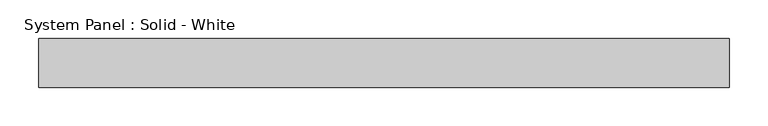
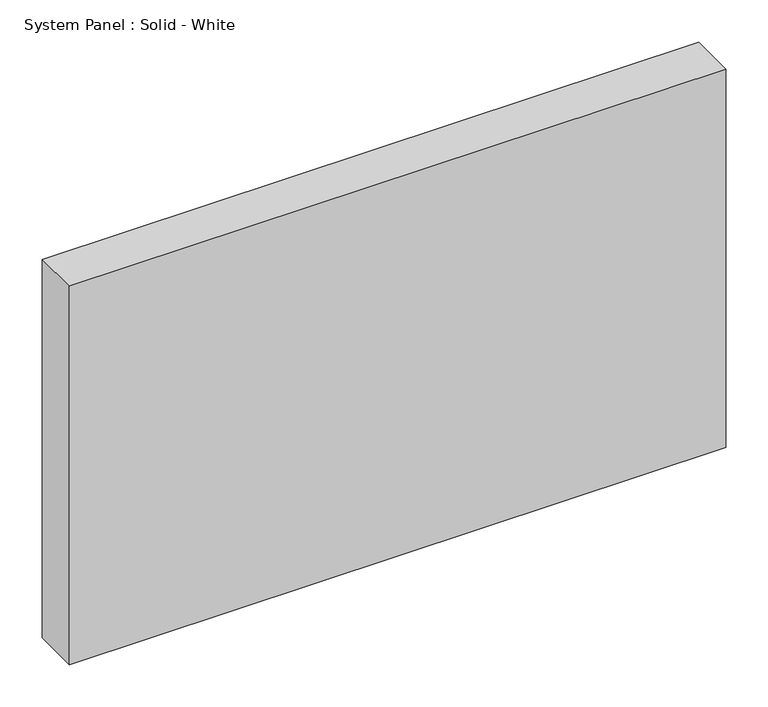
"""IFC4 building model written with IfcOpenShell, lengths in millimetres: plate geometry, System Panel : Solid - White."""

import ifcopenshell
import ifcopenshell.guid

model = None  # the IFC model being written
_history = None  # IfcOwnerHistory: only IFC2X3 demands one
_inside = {}  # id of a spatial element -> (the spatial element, [elements in it])
_under = {}  # id of a project, library or spatial element -> (it, [spatial elements below it])
_declared = {}  # id of a project -> (the project, [libraries it declares])
_typed = {}  # id of a type object -> (the type object, [elements of that type])
_made_of = {}  # id of a material, layer set ... -> (it, [elements and type objects made of it])


def new_model(schema):
    """Start an empty IFC model of exactly this schema.

    Asked for "IFC4X3", IfcOpenShell would pick the latest addendum, in which some entities
    have other attributes; the version numbers below select the first issue.
    IFC2X3 requires an IfcOwnerHistory on every rooted entity: one is made here for all.
    """
    global model, _history
    if schema == "IFC4X3":
        model = ifcopenshell.file(schema_version=(4, 3, 0, 0))
    else:
        model = ifcopenshell.file(schema=schema)
    _inside.clear()
    _under.clear()
    _declared.clear()
    _typed.clear()
    _made_of.clear()
    _history = None
    if model.schema == "IFC2X3":
        org = make("IfcOrganization", Name="unknown")
        user = make(
            "IfcPersonAndOrganization",
            ThePerson=make("IfcPerson", FamilyName="unknown"),
            TheOrganization=org,
        )
        app = make(
            "IfcApplication",
            ApplicationDeveloper=org,
            Version="unknown",
            ApplicationFullName="unknown",
            ApplicationIdentifier="unknown",
        )
        _history = make(
            "IfcOwnerHistory",
            OwningUser=user,
            OwningApplication=app,
            ChangeAction="ADDED",
            CreationDate=0,
        )
    return model


def make(cls, **values):
    """One entity of the class cls with the attributes given. An attribute that is None is left unset."""
    return model.create_entity(
        cls, **{name: value for name, value in values.items() if value is not None}
    )


def rooted(cls, **values):
    """An entity with a GlobalId (a new one), such as an element, a storey or a relation."""
    return make(cls, GlobalId=ifcopenshell.guid.new(), OwnerHistory=_history, **values)


def si_unit(unit_type, name, prefix=None):
    """IfcSIUnit, for example si_unit("LENGTHUNIT", "METRE", prefix="MILLI")."""
    return make("IfcSIUnit", UnitType=unit_type, Prefix=prefix, Name=name)


def assignment(units):
    """IfcUnitAssignment: the units of a project."""
    return None if units is None else make("IfcUnitAssignment", Units=units)


def point(xyz):
    """IfcCartesianPoint."""
    return None if xyz is None else make("IfcCartesianPoint", Coordinates=xyz)


def direction(xyz):
    """IfcDirection."""
    return None if xyz is None else make("IfcDirection", DirectionRatios=xyz)


def frame(location, z_axis=None, x_axis=None):
    """IfcAxis2Placement3D, a coordinate frame: its origin and axes. An axis left out is left unset."""
    return make(
        "IfcAxis2Placement3D",
        Location=point(location),
        Axis=direction(z_axis),
        RefDirection=direction(x_axis),
    )


def origin():
    """The frame at (0, 0, 0) with its axes left unset."""
    return frame((0.0, 0.0, 0.0))


def origin_with_axes():
    """The frame at (0, 0, 0) with the z axis (0, 0, 1) and the x axis (1, 0, 0) written out."""
    return frame((0.0, 0.0, 0.0), z_axis=(0.0, 0.0, 1.0), x_axis=(1.0, 0.0, 0.0))


def place(relative_to, where):
    """IfcLocalPlacement: puts the frame where relative to a parent placement (None: the world)."""
    return make(
        "IfcLocalPlacement", PlacementRelTo=relative_to, RelativePlacement=where
    )


def context(
    kind, dimensions, precision=None, world=None, true_north=None, identifier=None
):
    """IfcGeometricRepresentationContext, for example the 3D "Model" context."""
    return make(
        "IfcGeometricRepresentationContext",
        ContextIdentifier=identifier,
        ContextType=kind,
        CoordinateSpaceDimension=dimensions,
        Precision=precision,
        WorldCoordinateSystem=world,
        TrueNorth=true_north,
    )


def project(units=None, contexts=None):
    """IfcProject with its units and contexts."""
    return rooted(
        "IfcProject",
        Name="project",
        RepresentationContexts=contexts,
        UnitsInContext=assignment(units),
    )


def spatial(cls, under=None, at=None, **own):
    """A site, building, storey or space (cls), placed at a placement, below another one or the project."""
    s = rooted(cls, ObjectPlacement=at, **own)
    if under is not None:
        _under.setdefault(under.id(), (under, []))[1].append(s)
    return s


def polyline(points):
    """IfcPolyline through the points."""
    return make("IfcPolyline", Points=[point(p) for p in points])


def outline(outer, holes=None, kind="AREA"):
    """IfcArbitraryClosedProfileDef: a profile drawn as a closed curve; with holes, ...WithVoids."""
    if holes is None:
        return make("IfcArbitraryClosedProfileDef", ProfileType=kind, OuterCurve=outer)
    return make(
        "IfcArbitraryProfileDefWithVoids",
        ProfileType=kind,
        OuterCurve=outer,
        InnerCurves=holes,
    )


def extrude(swept, where, along, depth):
    """IfcExtrudedAreaSolid: the profile swept, set in the frame where, extruded along a direction by depth."""
    return make(
        "IfcExtrudedAreaSolid",
        SweptArea=swept,
        Position=where,
        ExtrudedDirection=direction(along),
        Depth=depth,
    )


def shape(context_of_items, identifier, shape_type, items):
    """IfcShapeRepresentation: the items that make up one representation, for example the "Body"."""
    return make(
        "IfcShapeRepresentation",
        ContextOfItems=context_of_items,
        RepresentationIdentifier=identifier,
        RepresentationType=shape_type,
        Items=items,
    )


def source(mapping_origin, context_of_items, identifier, shape_type, items):
    """IfcRepresentationMap: a shape defined once, which mapped items show again and again."""
    return make(
        "IfcRepresentationMap",
        MappingOrigin=mapping_origin,
        MappedRepresentation=shape(context_of_items, identifier, shape_type, items),
    )


def transform(
    local_origin,
    x_axis=None,
    y_axis=None,
    z_axis=None,
    scale=None,
    scale2=None,
    scale3=None,
    uniform=True,
):
    """IfcCartesianTransformationOperator3D, or its non-uniform kind. x_axis, y_axis, z_axis: its Axis1, 2, 3."""
    if uniform:
        return make(
            "IfcCartesianTransformationOperator3D",
            Axis1=direction(x_axis),
            Axis2=direction(y_axis),
            LocalOrigin=point(local_origin),
            Scale=scale,
            Axis3=direction(z_axis),
        )
    return make(
        "IfcCartesianTransformationOperator3DnonUniform",
        Axis1=direction(x_axis),
        Axis2=direction(y_axis),
        LocalOrigin=point(local_origin),
        Scale=scale,
        Axis3=direction(z_axis),
        Scale2=scale2,
        Scale3=scale3,
    )


def mapped(mapping_source, mapping_target):
    """IfcMappedItem: shows the shape of a source again, moved by a transform."""
    return make(
        "IfcMappedItem", MappingSource=mapping_source, MappingTarget=mapping_target
    )


def made_of(thing, what):
    """Note that an element or type object is made of a material, layer set ...; save() writes the relation."""
    if what is not None:
        _made_of.setdefault(what.id(), (what, []))[1].append(thing)
    return thing


def element(
    cls,
    number,
    at=None,
    inside=None,
    cuts=None,
    type_object=None,
    material=None,
    context=None,
    identifier="Body",
    shape_type=None,
    held_by="IfcProductDefinitionShape",
    body=None,
    shapes=None,
    **own,
):
    """One element of the class cls, such as IfcWall. Its Tag is "e" and its number.

    at: its placement. inside: the storey or other place that contains it. cuts: it is an
    opening in that element (IfcRelVoidsElement). A single representation is given by context,
    identifier, shape_type and body (its items); several are given by shapes. held_by: the class
    of the entity that holds the representations. save() writes the other relations.
    """
    e = rooted(cls, Tag="e%d" % number, ObjectPlacement=at, **own)
    if body is not None:
        shapes = [shape(context, identifier, shape_type, body)]
    if shapes is not None:
        e.Representation = make(held_by, Representations=shapes)
    if inside is not None:
        _inside.setdefault(inside.id(), (inside, []))[1].append(e)
    if cuts is not None:
        rooted(
            "IfcRelVoidsElement", RelatingBuildingElement=cuts, RelatedOpeningElement=e
        )
    if type_object is not None:
        _typed.setdefault(type_object.id(), (type_object, []))[1].append(e)
    return made_of(e, material)


def aggregate(whole, parts):
    """IfcRelAggregates: a whole, such as a stair, and the parts it consists of."""
    return rooted("IfcRelAggregates", RelatingObject=whole, RelatedObjects=parts)


def save(model, path):
    """Write the relations noted so far, then the file.

    IfcRelAggregates (storeys below a building ...), IfcRelContainedInSpatialStructure (elements
    in a storey), IfcRelDefinesByType, IfcRelAssociatesMaterial and IfcRelDeclares: one each for
    every whole, place, type object, material and project.
    """
    for whole, parts in _under.values():
        aggregate(whole, parts)
    for where, things in _inside.values():
        rooted(
            "IfcRelContainedInSpatialStructure",
            RelatedElements=things,
            RelatingStructure=where,
        )
    for kind, things in _typed.values():
        rooted("IfcRelDefinesByType", RelatedObjects=things, RelatingType=kind)
    for what, things in _made_of.values():
        rooted("IfcRelAssociatesMaterial", RelatedObjects=things, RelatingMaterial=what)
    for by, libraries in _declared.values():
        rooted("IfcRelDeclares", RelatingContext=by, RelatedDefinitions=libraries)
    model.write(path)


def system_panel_solid_white_91adc7ba(model_context):
    return source(origin(), model_context, "Body", "SweptSolid", [
        extrude(outline(polyline([(447.675, -19.05), (-447.675, -19.05), (-447.675, 44.45), (447.675, 44.45), (447.675, -19.05)])), origin_with_axes(), (0.0, 0.0, 1.0), 546.1),
    ])


if __name__ == "__main__":
    model = new_model("IFC4")
    model_context = context("Model", 3, world=origin())
    ifc_project = project(units=[si_unit("LENGTHUNIT", "METRE", prefix="MILLI")], contexts=[model_context])
    site = spatial("IfcSite", under=ifc_project)
    building = spatial("IfcBuilding", under=site)
    placement = place(None, origin())
    system_panel_solid_white_shape = system_panel_solid_white_91adc7ba(model_context)
    element("IfcPlate", 1, ObjectType="System Panel : Solid - White", at=placement, inside=building, context=model_context, shape_type="MappedRepresentation", body=[
        mapped(system_panel_solid_white_shape, transform((0.0, 0.0, 0.0), x_axis=(1.0, 0.0, 0.0), y_axis=(0.0, 1.0, 0.0), z_axis=(0.0, 0.0, 1.0))),
    ])
    save(model, "model.ifc")
